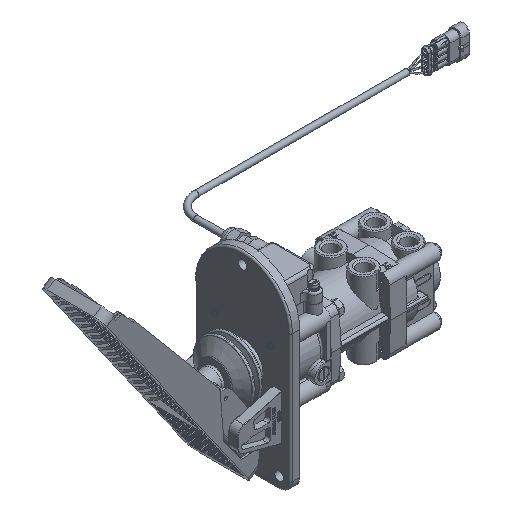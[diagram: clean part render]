
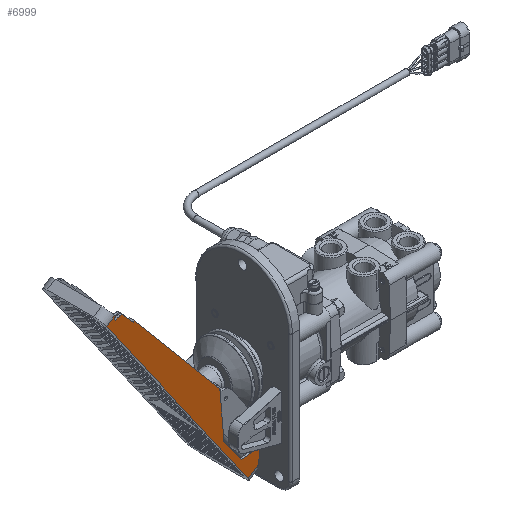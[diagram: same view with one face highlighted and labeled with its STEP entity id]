
A CAD part, isometric view. The second image highlights one B-rep face of the part: STEP entity #6999.
In plain terms, the highlighted planar face has unit normal (0, -1, 0).
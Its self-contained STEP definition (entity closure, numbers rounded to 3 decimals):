
#2562=PLANE('',#64656);
#6999=ADVANCED_FACE('',(#11054),#2562,.F.);
#11054=FACE_OUTER_BOUND('',#14928,.T.);
#14928=EDGE_LOOP('',(#41729,#41730,#41731,#41732,#41733,#41734,#41735,#41736,
#41737,#41738,#41739,#41740,#41741,#41742,#41743));
#19515=LINE('',#105764,#24248);
#19520=LINE('',#105789,#24253);
#19532=LINE('',#105817,#24265);
#19536=LINE('',#105825,#24269);
#19538=LINE('',#105828,#24271);
#19542=LINE('',#105840,#24275);
#19546=LINE('',#105848,#24279);
#19548=LINE('',#105851,#24281);
#19556=LINE('',#105867,#24289);
#19562=LINE('',#105877,#24295);
#19607=LINE('',#105966,#24340);
#19610=LINE('',#105972,#24343);
#20126=LINE('',#107035,#24859);
#20127=LINE('',#107036,#24860);
#24248=VECTOR('',#78330,1.);
#24253=VECTOR('',#78353,1.);
#24265=VECTOR('',#78377,1.);
#24269=VECTOR('',#78383,1.);
#24271=VECTOR('',#78387,1.);
#24275=VECTOR('',#78399,1.);
#24279=VECTOR('',#78405,1.);
#24281=VECTOR('',#78409,1.);
#24289=VECTOR('',#78421,1.);
#24295=VECTOR('',#78429,1.);
#24340=VECTOR('',#78508,1.);
#24343=VECTOR('',#78513,1.);
#24859=VECTOR('',#79443,1.);
#24860=VECTOR('',#79444,1.);
#27083=CIRCLE('',#64423,5.);
#41729=ORIENTED_EDGE('',*,*,#57021,.T.);
#41730=ORIENTED_EDGE('',*,*,#56927,.T.);
#41731=ORIENTED_EDGE('',*,*,#57540,.F.);
#41732=ORIENTED_EDGE('',*,*,#56916,.T.);
#41733=ORIENTED_EDGE('',*,*,#56967,.F.);
#41734=ORIENTED_EDGE('',*,*,#56973,.F.);
#41735=ORIENTED_EDGE('',*,*,#57541,.T.);
#41736=ORIENTED_EDGE('',*,*,#56959,.F.);
#41737=ORIENTED_EDGE('',*,*,#56941,.F.);
#41738=ORIENTED_EDGE('',*,*,#56945,.F.);
#41739=ORIENTED_EDGE('',*,*,#56947,.F.);
#41740=ORIENTED_EDGE('',*,*,#56950,.F.);
#41741=ORIENTED_EDGE('',*,*,#56953,.F.);
#41742=ORIENTED_EDGE('',*,*,#56957,.F.);
#41743=ORIENTED_EDGE('',*,*,#57024,.T.);
#49102=VERTEX_POINT('',#105757);
#49105=VERTEX_POINT('',#105763);
#49115=VERTEX_POINT('',#105787);
#49117=VERTEX_POINT('',#105790);
#49127=VERTEX_POINT('',#105818);
#49128=VERTEX_POINT('',#105819);
#49129=VERTEX_POINT('',#105824);
#49130=VERTEX_POINT('',#105829);
#49132=VERTEX_POINT('',#105835);
#49134=VERTEX_POINT('',#105841);
#49136=VERTEX_POINT('',#105847);
#49137=VERTEX_POINT('',#105852);
#49143=VERTEX_POINT('',#105868);
#49145=VERTEX_POINT('',#105876);
#49173=VERTEX_POINT('',#105967);
#56916=EDGE_CURVE('',#49102,#49105,#19515,.T.);
#56927=EDGE_CURVE('',#49117,#49115,#19520,.T.);
#56941=EDGE_CURVE('',#49127,#49128,#19532,.T.);
#56945=EDGE_CURVE('',#49129,#49127,#19536,.T.);
#56947=EDGE_CURVE('',#49130,#49129,#19538,.T.);
#56950=EDGE_CURVE('',#49132,#49130,#27083,.T.);
#56953=EDGE_CURVE('',#49134,#49132,#19542,.T.);
#56957=EDGE_CURVE('',#49136,#49134,#19546,.T.);
#56959=EDGE_CURVE('',#49128,#49137,#19548,.T.);
#56967=EDGE_CURVE('',#49143,#49105,#19556,.T.);
#56973=EDGE_CURVE('',#49145,#49143,#19562,.T.);
#57021=EDGE_CURVE('',#49173,#49117,#19607,.T.);
#57024=EDGE_CURVE('',#49136,#49173,#19610,.T.);
#57540=EDGE_CURVE('',#49102,#49115,#20126,.T.);
#57541=EDGE_CURVE('',#49145,#49137,#20127,.T.);
#64423=AXIS2_PLACEMENT_3D('',#105834,#78392,#78393);
#64656=AXIS2_PLACEMENT_3D('',#107037,#79445,#79446);
#78330=DIRECTION('',(0.819,0.,0.574));
#78353=DIRECTION('',(-0.819,0.,-0.574));
#78377=DIRECTION('',(0.643,0.,-0.766));
#78383=DIRECTION('',(0.819,0.,0.574));
#78387=DIRECTION('',(0.643,0.,-0.766));
#78392=DIRECTION('',(0.,1.,0.));
#78393=DIRECTION('',(-0.574,0.,0.819));
#78399=DIRECTION('',(0.819,0.,0.574));
#78405=DIRECTION('',(0.574,0.,-0.819));
#78409=DIRECTION('',(0.087,0.,-0.996));
#78421=DIRECTION('',(-0.105,0.,-0.995));
#78429=DIRECTION('',(0.996,0.,0.087));
#78508=DIRECTION('',(-0.574,0.,0.819));
#78513=DIRECTION('',(0.819,0.,0.574));
#79443=DIRECTION('',(-0.574,0.,0.819));
#79444=DIRECTION('',(-0.574,0.,0.819));
#79445=DIRECTION('',(0.,1.,0.));
#79446=DIRECTION('',(0.574,0.,-0.819));
#105757=CARTESIAN_POINT('',(-161.22,-34.4,-78.88));
#105763=CARTESIAN_POINT('',(-149.948,-34.4,-70.988));
#105764=CARTESIAN_POINT('',(-157.37,-34.4,-76.184));
#105787=CARTESIAN_POINT('',(-315.799,-34.4,141.882));
#105789=CARTESIAN_POINT('',(-311.949,-34.4,144.577));
#105790=CARTESIAN_POINT('',(-307.197,-34.4,147.904));
#105817=CARTESIAN_POINT('',(-285.157,-34.4,132.329));
#105818=CARTESIAN_POINT('',(-285.157,-34.4,132.329));
#105819=CARTESIAN_POINT('',(-192.178,-34.4,21.52));
#105824=CARTESIAN_POINT('',(-286.802,-34.4,131.177));
#105825=CARTESIAN_POINT('',(-286.802,-34.4,131.177));
#105828=CARTESIAN_POINT('',(-297.02,-34.4,143.355));
#105829=CARTESIAN_POINT('',(-297.02,-34.4,143.355));
#105834=CARTESIAN_POINT('',(-300.85,-34.4,140.141));
#105835=CARTESIAN_POINT('',(-303.718,-34.4,144.237));
#105840=CARTESIAN_POINT('',(-305.968,-34.4,142.661));
#105841=CARTESIAN_POINT('',(-305.968,-34.4,142.661));
#105847=CARTESIAN_POINT('',(-307.689,-34.4,145.119));
#105848=CARTESIAN_POINT('',(-312.851,-34.4,152.491));
#105851=CARTESIAN_POINT('',(-192.178,-34.4,21.52));
#105852=CARTESIAN_POINT('',(-187.606,-34.4,-30.735));
#105867=CARTESIAN_POINT('',(-148.317,-34.4,-55.464));
#105868=CARTESIAN_POINT('',(-148.317,-34.4,-55.464));
#105876=CARTESIAN_POINT('',(-169.022,-34.4,-57.276));
#105877=CARTESIAN_POINT('',(-169.022,-34.4,-57.276));
#105966=CARTESIAN_POINT('',(-312.36,-34.4,155.276));
#105967=CARTESIAN_POINT('',(-306.05,-34.4,146.266));
#105972=CARTESIAN_POINT('',(-306.05,-34.4,146.266));
#107035=CARTESIAN_POINT('',(-156.058,-34.4,-86.252));
#107036=CARTESIAN_POINT('',(-151.143,-34.4,-82.811));
#107037=CARTESIAN_POINT('',(-152.208,-34.4,-83.556));
